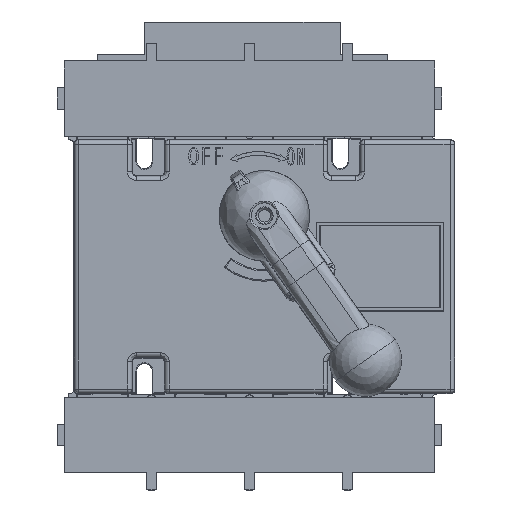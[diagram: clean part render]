
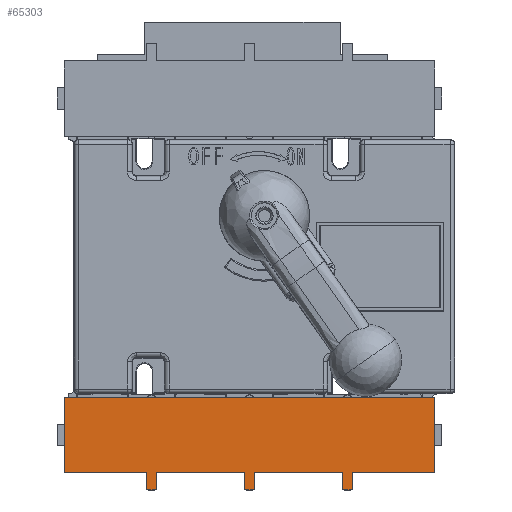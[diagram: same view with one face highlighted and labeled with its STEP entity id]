
A CAD part, top view. The second image highlights one B-rep face of the part: STEP entity #65303.
In plain terms, the highlighted planar face has unit normal (0, 0, 1) as drawn and (0, -1, 0) by its records, which use the part's own axes.
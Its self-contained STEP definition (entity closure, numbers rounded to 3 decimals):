
#60536=DIRECTION('',(0.,0.,-1.));
#60537=VECTOR('',#60536,24.3);
#60538=CARTESIAN_POINT('',(-29.45,-2.,11.06));
#60539=LINE('',#60538,#60537);
#60578=DIRECTION('',(0.,0.,-1.));
#60579=VECTOR('',#60578,24.3);
#60580=CARTESIAN_POINT('',(-29.45,-2.,38.06));
#60581=LINE('',#60580,#60579);
#60606=DIRECTION('',(0.,0.,-1.));
#60607=VECTOR('',#60606,22.65);
#60608=CARTESIAN_POINT('',(-29.45,-2.,63.41));
#60609=LINE('',#60608,#60607);
#60662=DIRECTION('',(0.,0.,-1.));
#60663=VECTOR('',#60662,22.65);
#60664=CARTESIAN_POINT('',(-29.45,-2.,-15.94));
#60665=LINE('',#60664,#60663);
#62552=DIRECTION('',(0.,0.,1.));
#62553=VECTOR('',#62552,102.);
#62554=CARTESIAN_POINT('',(-8.75,-2.,-38.59));
#62555=LINE('',#62554,#62553);
#62776=DIRECTION('',(1.,0.,0.));
#62777=VECTOR('',#62776,4.8);
#62778=CARTESIAN_POINT('',(-34.25,-2.,38.06));
#62779=LINE('',#62778,#62777);
#62783=DIRECTION('',(0.,0.,-1.));
#62784=VECTOR('',#62783,2.7);
#62785=CARTESIAN_POINT('',(-34.25,-2.,40.76));
#62786=LINE('',#62785,#62784);
#62790=DIRECTION('',(-1.,0.,0.));
#62791=VECTOR('',#62790,4.8);
#62792=CARTESIAN_POINT('',(-29.45,-2.,40.76));
#62793=LINE('',#62792,#62791);
#62797=DIRECTION('',(-1.,0.,0.));
#62798=VECTOR('',#62797,20.7);
#62799=CARTESIAN_POINT('',(-8.75,-2.,63.41));
#62800=LINE('',#62799,#62798);
#62804=DIRECTION('',(1.,0.,0.));
#62805=VECTOR('',#62804,20.7);
#62806=CARTESIAN_POINT('',(-29.45,-2.,-38.59));
#62807=LINE('',#62806,#62805);
#62811=DIRECTION('',(1.,0.,0.));
#62812=VECTOR('',#62811,4.8);
#62813=CARTESIAN_POINT('',(-34.25,-2.,-15.94));
#62814=LINE('',#62813,#62812);
#62818=DIRECTION('',(0.,0.,-1.));
#62819=VECTOR('',#62818,2.7);
#62820=CARTESIAN_POINT('',(-34.25,-2.,-13.24));
#62821=LINE('',#62820,#62819);
#62825=DIRECTION('',(-1.,0.,0.));
#62826=VECTOR('',#62825,4.8);
#62827=CARTESIAN_POINT('',(-29.45,-2.,-13.24));
#62828=LINE('',#62827,#62826);
#62832=DIRECTION('',(1.,0.,0.));
#62833=VECTOR('',#62832,4.8);
#62834=CARTESIAN_POINT('',(-34.25,-2.,11.06));
#62835=LINE('',#62834,#62833);
#62839=DIRECTION('',(0.,0.,-1.));
#62840=VECTOR('',#62839,2.7);
#62841=CARTESIAN_POINT('',(-34.25,-2.,13.76));
#62842=LINE('',#62841,#62840);
#62846=DIRECTION('',(-1.,0.,0.));
#62847=VECTOR('',#62846,4.8);
#62848=CARTESIAN_POINT('',(-29.45,-2.,13.76));
#62849=LINE('',#62848,#62847);
#63175=CARTESIAN_POINT('',(-8.75,-2.,63.41));
#63176=CARTESIAN_POINT('',(-29.45,-2.,63.41));
#63177=VERTEX_POINT('',#63175);
#63178=VERTEX_POINT('',#63176);
#63179=CARTESIAN_POINT('',(-29.45,-2.,-38.59));
#63180=CARTESIAN_POINT('',(-8.75,-2.,-38.59));
#63181=VERTEX_POINT('',#63179);
#63182=VERTEX_POINT('',#63180);
#63183=CARTESIAN_POINT('',(-34.25,-2.,-13.24));
#63184=CARTESIAN_POINT('',(-34.25,-2.,-15.94));
#63185=VERTEX_POINT('',#63183);
#63186=VERTEX_POINT('',#63184);
#63187=CARTESIAN_POINT('',(-34.25,-2.,13.76));
#63188=CARTESIAN_POINT('',(-34.25,-2.,11.06));
#63189=VERTEX_POINT('',#63187);
#63190=VERTEX_POINT('',#63188);
#63191=CARTESIAN_POINT('',(-34.25,-2.,40.76));
#63192=CARTESIAN_POINT('',(-34.25,-2.,38.06));
#63193=VERTEX_POINT('',#63191);
#63194=VERTEX_POINT('',#63192);
#63231=CARTESIAN_POINT('',(-29.45,-2.,40.76));
#63232=VERTEX_POINT('',#63231);
#63233=CARTESIAN_POINT('',(-29.45,-2.,38.06));
#63234=CARTESIAN_POINT('',(-29.45,-2.,13.76));
#63235=VERTEX_POINT('',#63233);
#63236=VERTEX_POINT('',#63234);
#63237=CARTESIAN_POINT('',(-29.45,-2.,11.06));
#63238=CARTESIAN_POINT('',(-29.45,-2.,-13.24));
#63239=VERTEX_POINT('',#63237);
#63240=VERTEX_POINT('',#63238);
#63241=CARTESIAN_POINT('',(-29.45,-2.,-15.94));
#63242=VERTEX_POINT('',#63241);
#65273=CARTESIAN_POINT('',(0.,-2.,0.));
#65274=DIRECTION('',(0.,-1.,0.));
#65275=DIRECTION('',(1.,0.,0.));
#65276=AXIS2_PLACEMENT_3D('',#65273,#65274,#65275);
#65277=PLANE('',#65276);
#65278=ORIENTED_EDGE('',*,*,#63844,.F.);
#65280=ORIENTED_EDGE('',*,*,#65279,.F.);
#65282=ORIENTED_EDGE('',*,*,#65281,.F.);
#65284=ORIENTED_EDGE('',*,*,#65283,.F.);
#65285=ORIENTED_EDGE('',*,*,#63870,.F.);
#65286=ORIENTED_EDGE('',*,*,#64881,.F.);
#65287=ORIENTED_EDGE('',*,*,#65103,.F.);
#65288=ORIENTED_EDGE('',*,*,#65252,.F.);
#65289=ORIENTED_EDGE('',*,*,#63912,.F.);
#65290=ORIENTED_EDGE('',*,*,#64536,.F.);
#65292=ORIENTED_EDGE('',*,*,#65291,.F.);
#65293=ORIENTED_EDGE('',*,*,#63778,.F.);
#65294=ORIENTED_EDGE('',*,*,#63817,.F.);
#65296=ORIENTED_EDGE('',*,*,#65295,.F.);
#65298=ORIENTED_EDGE('',*,*,#65297,.F.);
#65300=ORIENTED_EDGE('',*,*,#65299,.F.);
#65301=EDGE_LOOP('',(#65278,#65280,#65282,#65284,#65285,#65286,#65287,#65288,
#65289,#65290,#65292,#65293,#65294,#65296,#65298,#65300));
#65302=FACE_OUTER_BOUND('',#65301,.F.);
#63778=EDGE_CURVE('',#63240,#63185,#62828,.T.);
#63817=EDGE_CURVE('',#63239,#63240,#60539,.T.);
#63844=EDGE_CURVE('',#63235,#63236,#60581,.T.);
#63870=EDGE_CURVE('',#63178,#63232,#60609,.T.);
#63912=EDGE_CURVE('',#63242,#63181,#60665,.T.);
#64536=EDGE_CURVE('',#63186,#63242,#62814,.T.);
#64881=EDGE_CURVE('',#63177,#63178,#62800,.T.);
#65103=EDGE_CURVE('',#63182,#63177,#62555,.T.);
#65252=EDGE_CURVE('',#63181,#63182,#62807,.T.);
#65279=EDGE_CURVE('',#63194,#63235,#62779,.T.);
#65281=EDGE_CURVE('',#63193,#63194,#62786,.T.);
#65283=EDGE_CURVE('',#63232,#63193,#62793,.T.);
#65291=EDGE_CURVE('',#63185,#63186,#62821,.T.);
#65295=EDGE_CURVE('',#63190,#63239,#62835,.T.);
#65297=EDGE_CURVE('',#63189,#63190,#62842,.T.);
#65299=EDGE_CURVE('',#63236,#63189,#62849,.T.);
#65303=ADVANCED_FACE('',(#65302),#65277,.T.);
